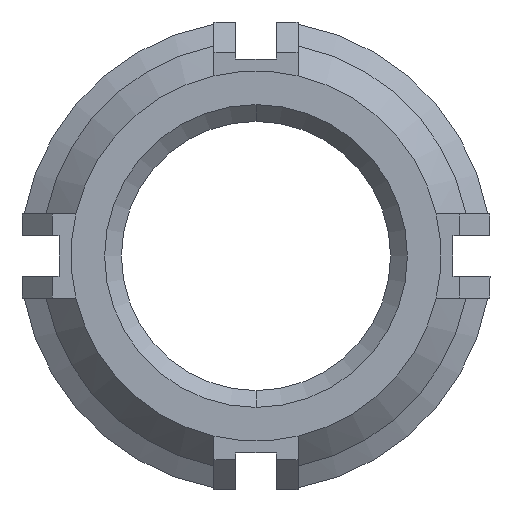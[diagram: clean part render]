
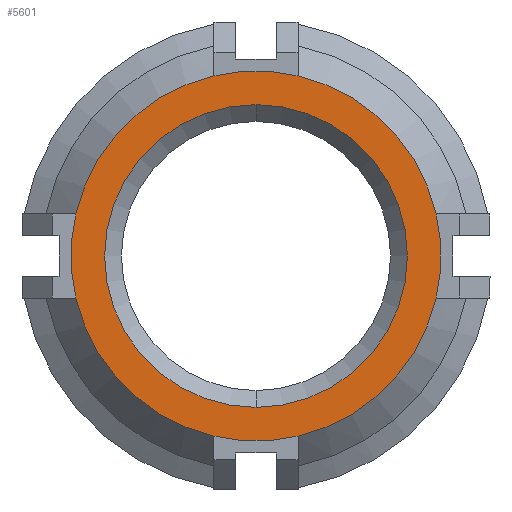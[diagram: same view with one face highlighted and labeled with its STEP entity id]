
A CAD part, front view. The second image highlights one B-rep face of the part: STEP entity #5601.
In plain terms, the highlighted planar face has unit normal (0, -1, 0).
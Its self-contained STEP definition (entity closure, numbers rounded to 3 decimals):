
#52 = VERTEX_POINT ( 'NONE', #3881 ) ;
#150 = AXIS2_PLACEMENT_3D ( 'NONE', #2325, #5393, #2761 ) ;
#175 = VERTEX_POINT ( 'NONE', #2588 ) ;
#242 = VERTEX_POINT ( 'NONE', #1861 ) ;
#359 = EDGE_CURVE ( 'NONE', #52, #4262, #5332, .T. ) ;
#413 = DIRECTION ( 'NONE',  ( 0., 1., 0. ) ) ;
#496 = CARTESIAN_POINT ( 'NONE',  ( 0., -14., 0. ) ) ;
#630 = EDGE_LOOP ( 'NONE', ( #4784, #1681 ) ) ;
#673 = CIRCLE ( 'NONE', #3217, 5.5 ) ;
#729 = VERTEX_POINT ( 'NONE', #4424 ) ;
#803 = EDGE_CURVE ( 'NONE', #843, #175, #2519, .T. ) ;
#824 = DIRECTION ( 'NONE',  ( 0., 0., 1. ) ) ;
#843 = VERTEX_POINT ( 'NONE', #3052 ) ;
#901 = CARTESIAN_POINT ( 'NONE',  ( 0., -14., 0. ) ) ;
#910 = VERTEX_POINT ( 'NONE', #3605 ) ;
#999 = ORIENTED_EDGE ( 'NONE', *, *, #2351, .T. ) ;
#1038 = PLANE ( 'NONE',  #150 ) ;
#1259 = CIRCLE ( 'NONE', #5518, 5.5 ) ;
#1283 = CARTESIAN_POINT ( 'NONE',  ( 0., -14., 0. ) ) ;
#1343 = DIRECTION ( 'NONE',  ( 0., -1., 0. ) ) ;
#1349 = CIRCLE ( 'NONE', #4409, 5.5 ) ;
#1362 = ORIENTED_EDGE ( 'NONE', *, *, #5175, .T. ) ;
#1423 = EDGE_CURVE ( 'NONE', #910, #52, #5124, .T. ) ;
#1454 = ORIENTED_EDGE ( 'NONE', *, *, #359, .T. ) ;
#1510 = DIRECTION ( 'NONE',  ( 0., -1., 0. ) ) ;
#1533 = CARTESIAN_POINT ( 'NONE',  ( -1.25, -14., 5.356 ) ) ;
#1534 = CARTESIAN_POINT ( 'NONE',  ( 0., -14., 0. ) ) ;
#1681 = ORIENTED_EDGE ( 'NONE', *, *, #3602, .T. ) ;
#1759 = CARTESIAN_POINT ( 'NONE',  ( 0., -14., 0. ) ) ;
#1790 = DIRECTION ( 'NONE',  ( 0., 1., 0. ) ) ;
#1831 = CARTESIAN_POINT ( 'NONE',  ( 0., -14., 0. ) ) ;
#1861 = CARTESIAN_POINT ( 'NONE',  ( 1.25, -14., -5.356 ) ) ;
#1904 = AXIS2_PLACEMENT_3D ( 'NONE', #4477, #4884, #2207 ) ;
#2203 = DIRECTION ( 'NONE',  ( 0., -1., 0. ) ) ;
#2207 = DIRECTION ( 'NONE',  ( 0., 0., -1. ) ) ;
#2258 = FACE_BOUND ( 'NONE', #630, .T. ) ;
#2318 = AXIS2_PLACEMENT_3D ( 'NONE', #3106, #413, #4373 ) ;
#2325 = CARTESIAN_POINT ( 'NONE',  ( 0., -14., 0. ) ) ;
#2351 = EDGE_CURVE ( 'NONE', #5136, #729, #1259, .T. ) ;
#2388 = DIRECTION ( 'NONE',  ( 0., -1., 0. ) ) ;
#2398 = EDGE_CURVE ( 'NONE', #4262, #4446, #4646, .T. ) ;
#2515 = DIRECTION ( 'NONE',  ( 0., 0., 1. ) ) ;
#2519 = CIRCLE ( 'NONE', #2613, 4.5 ) ;
#2588 = CARTESIAN_POINT ( 'NONE',  ( 0., -14., 4.5 ) ) ;
#2613 = AXIS2_PLACEMENT_3D ( 'NONE', #901, #1790, #4429 ) ;
#2700 = CARTESIAN_POINT ( 'NONE',  ( -5.356, -14., 1.25 ) ) ;
#2761 = DIRECTION ( 'NONE',  ( 0., 0., 1. ) ) ;
#2804 = ORIENTED_EDGE ( 'NONE', *, *, #3504, .T. ) ;
#2817 = CARTESIAN_POINT ( 'NONE',  ( 0., -14., 0. ) ) ;
#3052 = CARTESIAN_POINT ( 'NONE',  ( 0., -14., -4.5 ) ) ;
#3106 = CARTESIAN_POINT ( 'NONE',  ( 0., -14., 0. ) ) ;
#3147 = FACE_OUTER_BOUND ( 'NONE', #3948, .T. ) ;
#3176 = DIRECTION ( 'NONE',  ( 0., -1., 0. ) ) ;
#3217 = AXIS2_PLACEMENT_3D ( 'NONE', #1534, #2388, #4628 ) ;
#3271 = ORIENTED_EDGE ( 'NONE', *, *, #1423, .T. ) ;
#3403 = ORIENTED_EDGE ( 'NONE', *, *, #4960, .T. ) ;
#3504 = EDGE_CURVE ( 'NONE', #3746, #5136, #4418, .T. ) ;
#3602 = EDGE_CURVE ( 'NONE', #175, #843, #4059, .T. ) ;
#3605 = CARTESIAN_POINT ( 'NONE',  ( 5.356, -14., -1.25 ) ) ;
#3746 = VERTEX_POINT ( 'NONE', #2700 ) ;
#3881 = CARTESIAN_POINT ( 'NONE',  ( 5.356, -14., 1.25 ) ) ;
#3933 = CARTESIAN_POINT ( 'NONE',  ( 0., -14., 0. ) ) ;
#3948 = EDGE_LOOP ( 'NONE', ( #2804, #999, #1362, #5120, #3271, #1454, #5501, #3403 ) ) ;
#4007 = DIRECTION ( 'NONE',  ( 0., 0., 1. ) ) ;
#4049 = DIRECTION ( 'NONE',  ( 0., 0., 1. ) ) ;
#4059 = CIRCLE ( 'NONE', #2318, 4.5 ) ;
#4133 = AXIS2_PLACEMENT_3D ( 'NONE', #496, #3176, #4537 ) ;
#4196 = DIRECTION ( 'NONE',  ( 0., 0., 1. ) ) ;
#4211 = AXIS2_PLACEMENT_3D ( 'NONE', #1283, #5148, #2515 ) ;
#4262 = VERTEX_POINT ( 'NONE', #4972 ) ;
#4299 = AXIS2_PLACEMENT_3D ( 'NONE', #2817, #1510, #4196 ) ;
#4373 = DIRECTION ( 'NONE',  ( 0., 0., 1. ) ) ;
#4409 = AXIS2_PLACEMENT_3D ( 'NONE', #3933, #2203, #824 ) ;
#4418 = CIRCLE ( 'NONE', #4211, 5.5 ) ;
#4424 = CARTESIAN_POINT ( 'NONE',  ( -1.25, -14., -5.356 ) ) ;
#4429 = DIRECTION ( 'NONE',  ( 0., 0., 1. ) ) ;
#4446 = VERTEX_POINT ( 'NONE', #1533 ) ;
#4477 = CARTESIAN_POINT ( 'NONE',  ( 0., -14., 0. ) ) ;
#4537 = DIRECTION ( 'NONE',  ( 1., 0., 0. ) ) ;
#4628 = DIRECTION ( 'NONE',  ( -1., 0., 0. ) ) ;
#4646 = CIRCLE ( 'NONE', #4133, 5.5 ) ;
#4784 = ORIENTED_EDGE ( 'NONE', *, *, #803, .T. ) ;
#4831 = DIRECTION ( 'NONE',  ( 0., -1., 0. ) ) ;
#4884 = DIRECTION ( 'NONE',  ( 0., -1., 0. ) ) ;
#4960 = EDGE_CURVE ( 'NONE', #4446, #3746, #5565, .T. ) ;
#4972 = CARTESIAN_POINT ( 'NONE',  ( 1.25, -14., 5.356 ) ) ;
#5092 = CARTESIAN_POINT ( 'NONE',  ( -5.356, -14., -1.25 ) ) ;
#5120 = ORIENTED_EDGE ( 'NONE', *, *, #5450, .T. ) ;
#5124 = CIRCLE ( 'NONE', #1904, 5.5 ) ;
#5136 = VERTEX_POINT ( 'NONE', #5092 ) ;
#5148 = DIRECTION ( 'NONE',  ( 0., -1., 0. ) ) ;
#5157 = AXIS2_PLACEMENT_3D ( 'NONE', #1831, #1343, #4049 ) ;
#5175 = EDGE_CURVE ( 'NONE', #729, #242, #673, .T. ) ;
#5332 = CIRCLE ( 'NONE', #4299, 5.5 ) ;
#5393 = DIRECTION ( 'NONE',  ( 0., 1., 0. ) ) ;
#5450 = EDGE_CURVE ( 'NONE', #242, #910, #1349, .T. ) ;
#5501 = ORIENTED_EDGE ( 'NONE', *, *, #2398, .T. ) ;
#5518 = AXIS2_PLACEMENT_3D ( 'NONE', #1759, #4831, #4007 ) ;
#5565 = CIRCLE ( 'NONE', #5157, 5.5 ) ;
#5601 = ADVANCED_FACE ( 'NONE', ( #2258, #3147 ), #1038, .F. ) ;
